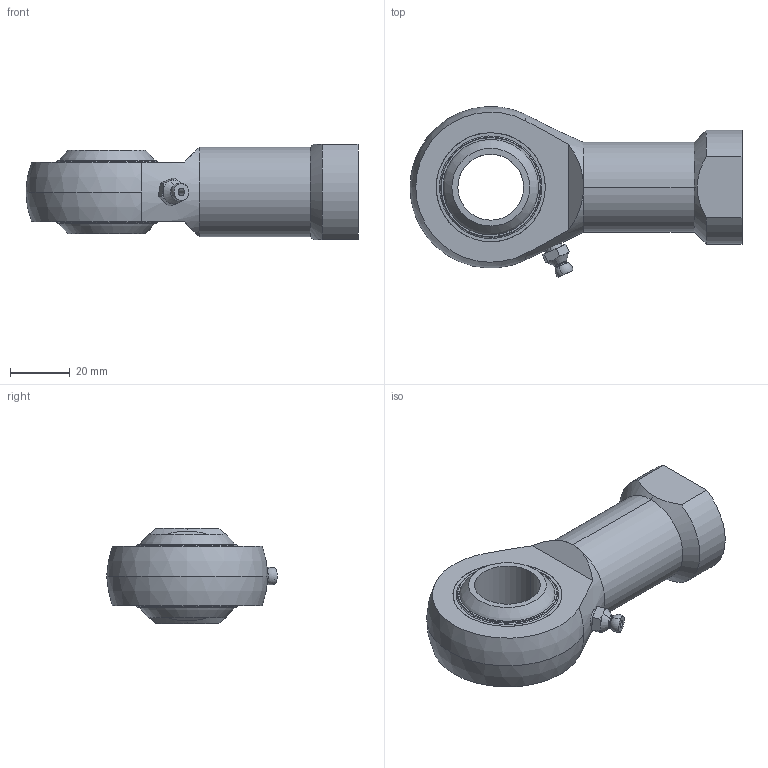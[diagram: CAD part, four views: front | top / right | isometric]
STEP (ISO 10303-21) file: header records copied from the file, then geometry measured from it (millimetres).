
FILE_DESCRIPTION (( 'STEP AP203' ), '1' );
FILE_NAME ('65760.W0222.step', '2014-02-11T16:40:23', ( 'User' ), ( '' ), 'SwSTEP 2.0', 'SolidWorks 2009', '' );
FILE_SCHEMA (( 'CONFIG_CONTROL_DESIGN' ));
Length unit declared in the file: millimetre
Products named in the file (5): 65760.W0222; Part1_65760.W0222; Part2_65760.W0222; Part3_M6; Part4_65760.W0222
Assembly tree (5 placements, depth 2):
  65760.W0222
    Part3_M6
    Part4_65760.W0222  x2
    Part1_65760.W0222
    Part2_65760.W0222
Bounding box: 111 x 57.08 x 32 mm (x, y, z)
Volume: 66809.4 mm3; surface area: 29085.9 mm2
Topology: 46 solids, 46 shells, 183 faces, 524 edges, 353 vertices
Faces by surface type: sphere 98, plane 27, torus 22, cylinder 20, cone 16
Entity records: 4823 total; most frequent: CARTESIAN_POINT 917, DIRECTION 814, ORIENTED_EDGE 558, AXIS2_PLACEMENT_3D 385, EDGE_CURVE 279, VERTEX_POINT 208, CIRCLE 207, EDGE_LOOP 189
